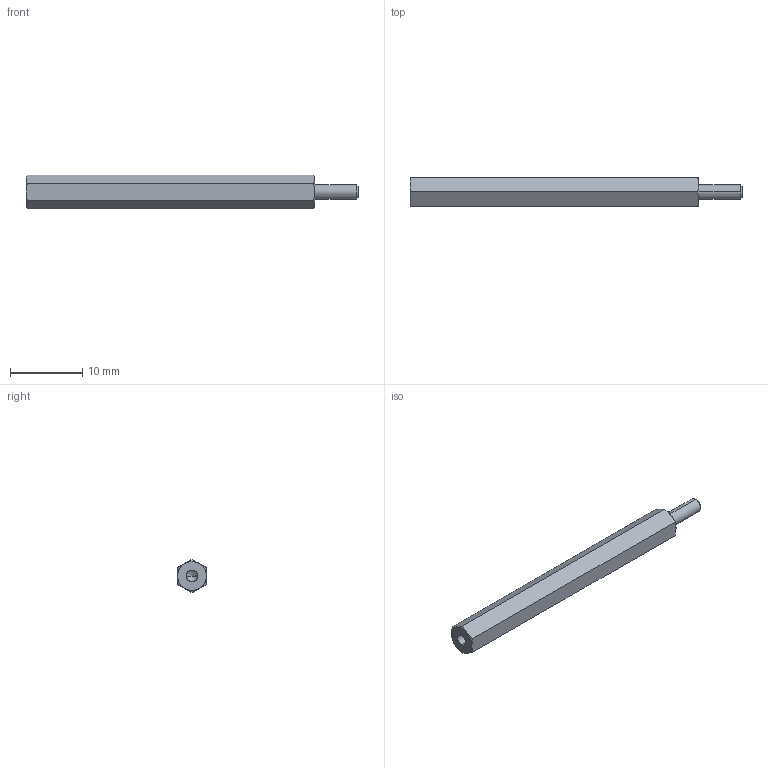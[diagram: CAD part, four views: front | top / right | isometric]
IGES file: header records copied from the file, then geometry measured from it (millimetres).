
Start section: SolidWorks IGES file using analytic representation for surfaces
Global section: file name: C:\Users\render1\Desktop\P0185_IGES\P0185.02-40.igs; native system: SolidWorks 2009; preprocessor: SolidWorks 2009; author: render1; date: 130627.111425; units: millimetre
Bounding box: 46 x 4 x 4.62 mm (x, y, z)
Surface area: 648.1 mm2 (no closed solid volume)
Topology: 0 solids, 0 shells, 29 faces, 292 edges, 290 vertices
Faces by surface type: revolution 20, bspline 9
